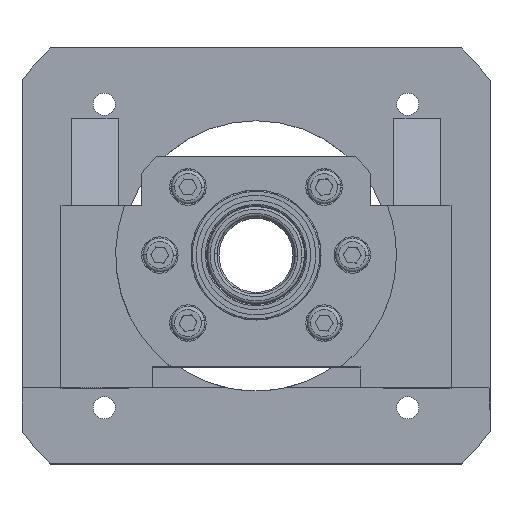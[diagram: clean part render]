
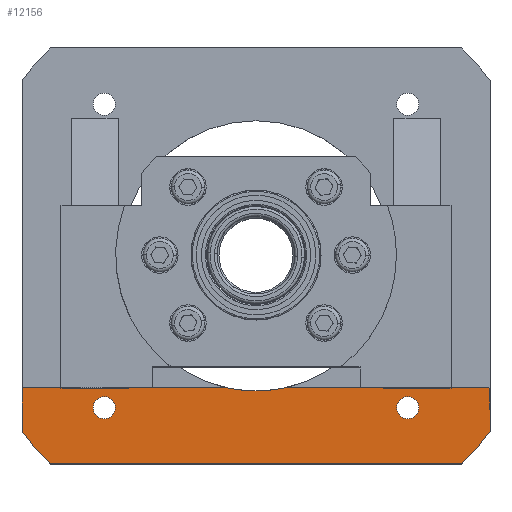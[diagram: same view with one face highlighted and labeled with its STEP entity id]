
A CAD part, top view. The second image highlights one B-rep face of the part: STEP entity #12156.
In plain terms, the highlighted planar face has unit normal (0, 0, 1).
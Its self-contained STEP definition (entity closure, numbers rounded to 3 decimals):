
#546 = CIRCLE ( 'NONE', #3028, 52. ) ;
#1180 = AXIS2_PLACEMENT_3D ( 'NONE', #5855, #16401, #7384 ) ;
#1350 = ORIENTED_EDGE ( 'NONE', *, *, #11389, .T. ) ;
#1398 = CIRCLE ( 'NONE', #1180, 112.5 ) ;
#1454 = CARTESIAN_POINT ( 'NONE',  ( -58.336, -58.336, 21. ) ) ;
#1501 = VERTEX_POINT ( 'NONE', #8734 ) ;
#1636 = EDGE_CURVE ( 'NONE', #10440, #6756, #546, .T. ) ;
#1876 = VERTEX_POINT ( 'NONE', #4474 ) ;
#1912 = VECTOR ( 'NONE', #4368, 1000. ) ;
#1932 = CARTESIAN_POINT ( 'NONE',  ( -11.555, -50.7, 21. ) ) ;
#2553 = PLANE ( 'NONE',  #17819 ) ;
#2556 = CARTESIAN_POINT ( 'NONE',  ( 58.336, -58.336, 21. ) ) ;
#2579 = DIRECTION ( 'NONE',  ( 1., 0., 0. ) ) ;
#2625 = CARTESIAN_POINT ( 'NONE',  ( 58.336, -58.336, 21. ) ) ;
#2776 = CIRCLE ( 'NONE', #2976, 4.25 ) ;
#2931 = VERTEX_POINT ( 'NONE', #5246 ) ;
#2976 = AXIS2_PLACEMENT_3D ( 'NONE', #15399, #6346, #16893 ) ;
#3028 = AXIS2_PLACEMENT_3D ( 'NONE', #7341, #7324, #7254 ) ;
#3043 = VECTOR ( 'NONE', #6425, 1000. ) ;
#3073 = FACE_BOUND ( 'NONE', #4413, .T. ) ;
#3106 = LINE ( 'NONE', #13747, #10696 ) ;
#3253 = EDGE_CURVE ( 'NONE', #1501, #17418, #15161, .T. ) ;
#3533 = CARTESIAN_POINT ( 'NONE',  ( -62.586, -58.336, 21. ) ) ;
#3715 = ORIENTED_EDGE ( 'NONE', *, *, #18244, .F. ) ;
#3831 = CARTESIAN_POINT ( 'NONE',  ( -90., -67.5, 21. ) ) ;
#3874 = EDGE_CURVE ( 'NONE', #18576, #4802, #3106, .T. ) ;
#4052 = DIRECTION ( 'NONE',  ( 1., 0., 0. ) ) ;
#4088 = VERTEX_POINT ( 'NONE', #7793 ) ;
#4129 = DIRECTION ( 'NONE',  ( 1., 0., 0. ) ) ;
#4155 = CIRCLE ( 'NONE', #10719, 4.25 ) ;
#4368 = DIRECTION ( 'NONE',  ( 0., 1., 0. ) ) ;
#4413 = EDGE_LOOP ( 'NONE', ( #3715, #8989 ) ) ;
#4474 = CARTESIAN_POINT ( 'NONE',  ( 90., -50.7, 21. ) ) ;
#4675 = ORIENTED_EDGE ( 'NONE', *, *, #19234, .F. ) ;
#4679 = LINE ( 'NONE', #14643, #16226 ) ;
#4802 = VERTEX_POINT ( 'NONE', #12232 ) ;
#4899 = EDGE_CURVE ( 'NONE', #4802, #4088, #13043, .T. ) ;
#5246 = CARTESIAN_POINT ( 'NONE',  ( 54.086, -58.336, 21. ) ) ;
#5674 = VECTOR ( 'NONE', #6978, 1000. ) ;
#5855 = CARTESIAN_POINT ( 'NONE',  ( 0., 0., 21. ) ) ;
#5919 = LINE ( 'NONE', #8884, #1912 ) ;
#6002 = EDGE_LOOP ( 'NONE', ( #1350, #8932, #6049, #15962, #18559, #17118, #6990, #12672 ) ) ;
#6049 = ORIENTED_EDGE ( 'NONE', *, *, #3874, .T. ) ;
#6064 = CIRCLE ( 'NONE', #11478, 4.25 ) ;
#6346 = DIRECTION ( 'NONE',  ( 0., 0., 1. ) ) ;
#6425 = DIRECTION ( 'NONE',  ( 1., 0., 0. ) ) ;
#6733 = CARTESIAN_POINT ( 'NONE',  ( -79.096, -80., 21. ) ) ;
#6756 = VERTEX_POINT ( 'NONE', #1932 ) ;
#6978 = DIRECTION ( 'NONE',  ( 0., -1., 0. ) ) ;
#6990 = ORIENTED_EDGE ( 'NONE', *, *, #1636, .T. ) ;
#7086 = DIRECTION ( 'NONE',  ( 0., 0., 1. ) ) ;
#7254 = DIRECTION ( 'NONE',  ( 1., 0., 0. ) ) ;
#7324 = DIRECTION ( 'NONE',  ( 0., 0., -1. ) ) ;
#7341 = CARTESIAN_POINT ( 'NONE',  ( 0., 0., 21. ) ) ;
#7384 = DIRECTION ( 'NONE',  ( 1., 0., 0. ) ) ;
#7491 = VERTEX_POINT ( 'NONE', #3831 ) ;
#7533 = LINE ( 'NONE', #12483, #3043 ) ;
#7793 = CARTESIAN_POINT ( 'NONE',  ( 90., -67.5, 21. ) ) ;
#8734 = CARTESIAN_POINT ( 'NONE',  ( -54.086, -58.336, 21. ) ) ;
#8884 = CARTESIAN_POINT ( 'NONE',  ( 90., 80., 21. ) ) ;
#8932 = ORIENTED_EDGE ( 'NONE', *, *, #13398, .T. ) ;
#8989 = ORIENTED_EDGE ( 'NONE', *, *, #3253, .F. ) ;
#9719 = LINE ( 'NONE', #13010, #5674 ) ;
#9975 = VERTEX_POINT ( 'NONE', #13058 ) ;
#10440 = VERTEX_POINT ( 'NONE', #12274 ) ;
#10658 = FACE_OUTER_BOUND ( 'NONE', #6002, .T. ) ;
#10696 = VECTOR ( 'NONE', #13474, 1000. ) ;
#10719 = AXIS2_PLACEMENT_3D ( 'NONE', #2625, #13209, #4129 ) ;
#10880 = DIRECTION ( 'NONE',  ( 1., 0., 0. ) ) ;
#10909 = DIRECTION ( 'NONE',  ( 0., 0., 1. ) ) ;
#10945 = CARTESIAN_POINT ( 'NONE',  ( 0., 0., 21. ) ) ;
#11005 = EDGE_CURVE ( 'NONE', #4088, #1876, #5919, .T. ) ;
#11271 = EDGE_LOOP ( 'NONE', ( #4675, #15753 ) ) ;
#11389 = EDGE_CURVE ( 'NONE', #11747, #7491, #9719, .T. ) ;
#11478 = AXIS2_PLACEMENT_3D ( 'NONE', #2556, #13126, #4052 ) ;
#11747 = VERTEX_POINT ( 'NONE', #13606 ) ;
#12156 = ADVANCED_FACE ( 'NONE', ( #14629, #3073, #10658 ), #2553, .T. ) ;
#12232 = CARTESIAN_POINT ( 'NONE',  ( 79.096, -80., 21. ) ) ;
#12274 = CARTESIAN_POINT ( 'NONE',  ( 11.555, -50.7, 21. ) ) ;
#12483 = CARTESIAN_POINT ( 'NONE',  ( -104.626, -50.7, 21. ) ) ;
#12672 = ORIENTED_EDGE ( 'NONE', *, *, #16752, .F. ) ;
#12802 = AXIS2_PLACEMENT_3D ( 'NONE', #10945, #10909, #10880 ) ;
#13010 = CARTESIAN_POINT ( 'NONE',  ( -90., 80., 21. ) ) ;
#13043 = CIRCLE ( 'NONE', #12802, 112.5 ) ;
#13058 = CARTESIAN_POINT ( 'NONE',  ( 62.586, -58.336, 21. ) ) ;
#13119 = CARTESIAN_POINT ( 'NONE',  ( -104.626, -111., 21. ) ) ;
#13126 = DIRECTION ( 'NONE',  ( 0., 0., 1. ) ) ;
#13209 = DIRECTION ( 'NONE',  ( 0., 0., 1. ) ) ;
#13398 = EDGE_CURVE ( 'NONE', #7491, #18576, #1398, .T. ) ;
#13474 = DIRECTION ( 'NONE',  ( 1., 0., 0. ) ) ;
#13606 = CARTESIAN_POINT ( 'NONE',  ( -90., -50.7, 21. ) ) ;
#13656 = EDGE_CURVE ( 'NONE', #10440, #1876, #7533, .T. ) ;
#13747 = CARTESIAN_POINT ( 'NONE',  ( -90., -80., 21. ) ) ;
#14629 = FACE_BOUND ( 'NONE', #11271, .T. ) ;
#14643 = CARTESIAN_POINT ( 'NONE',  ( -104.626, -50.7, 21. ) ) ;
#15161 = CIRCLE ( 'NONE', #15656, 4.25 ) ;
#15399 = CARTESIAN_POINT ( 'NONE',  ( -58.336, -58.336, 21. ) ) ;
#15656 = AXIS2_PLACEMENT_3D ( 'NONE', #1454, #18572, #18371 ) ;
#15753 = ORIENTED_EDGE ( 'NONE', *, *, #17752, .F. ) ;
#15962 = ORIENTED_EDGE ( 'NONE', *, *, #4899, .T. ) ;
#16226 = VECTOR ( 'NONE', #2579, 1000. ) ;
#16401 = DIRECTION ( 'NONE',  ( 0., 0., 1. ) ) ;
#16752 = EDGE_CURVE ( 'NONE', #11747, #6756, #4679, .T. ) ;
#16893 = DIRECTION ( 'NONE',  ( 1., 0., 0. ) ) ;
#17118 = ORIENTED_EDGE ( 'NONE', *, *, #13656, .F. ) ;
#17418 = VERTEX_POINT ( 'NONE', #3533 ) ;
#17627 = DIRECTION ( 'NONE',  ( 1., 0., 0. ) ) ;
#17752 = EDGE_CURVE ( 'NONE', #9975, #2931, #6064, .T. ) ;
#17819 = AXIS2_PLACEMENT_3D ( 'NONE', #13119, #7086, #17627 ) ;
#18244 = EDGE_CURVE ( 'NONE', #17418, #1501, #2776, .T. ) ;
#18371 = DIRECTION ( 'NONE',  ( 1., 0., 0. ) ) ;
#18559 = ORIENTED_EDGE ( 'NONE', *, *, #11005, .T. ) ;
#18572 = DIRECTION ( 'NONE',  ( 0., 0., 1. ) ) ;
#18576 = VERTEX_POINT ( 'NONE', #6733 ) ;
#19234 = EDGE_CURVE ( 'NONE', #2931, #9975, #4155, .T. ) ;
